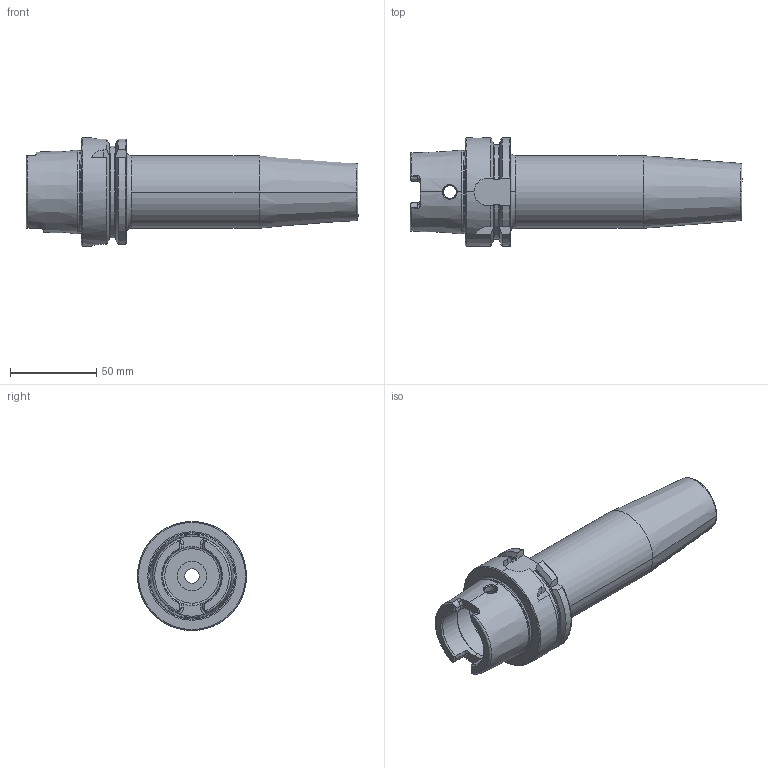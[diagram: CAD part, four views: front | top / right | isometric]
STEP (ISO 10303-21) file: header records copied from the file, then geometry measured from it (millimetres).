
FILE_DESCRIPTION (( 'STEP AP214' ), '1' );
FILE_NAME ('04-0491.STEP', '2021-08-03T19:15:13', ( '' ), ( '' ), 'SwSTEP 2.0', 'SolidWorks 2020', '' );
FILE_SCHEMA (( 'AUTOMOTIVE_DESIGN' ));
Length unit declared in the file: inch
Products named in the file (1): 04-0491
Bounding box: 192 x 63 x 63 mm (x, y, z)
Volume: 228745.4 mm3; surface area: 44212 mm2
Topology: 1 solids, 1 shells, 153 faces, 409 edges, 260 vertices
Faces by surface type: cylinder 49, bspline 41, plane 41, cone 22
Entity records: 8389 total; most frequent: CARTESIAN_POINT 4822, ORIENTED_EDGE 818, DIRECTION 656, EDGE_CURVE 409, AXIS2_PLACEMENT_3D 264, VERTEX_POINT 260, EDGE_LOOP 161, ADVANCED_FACE 153
